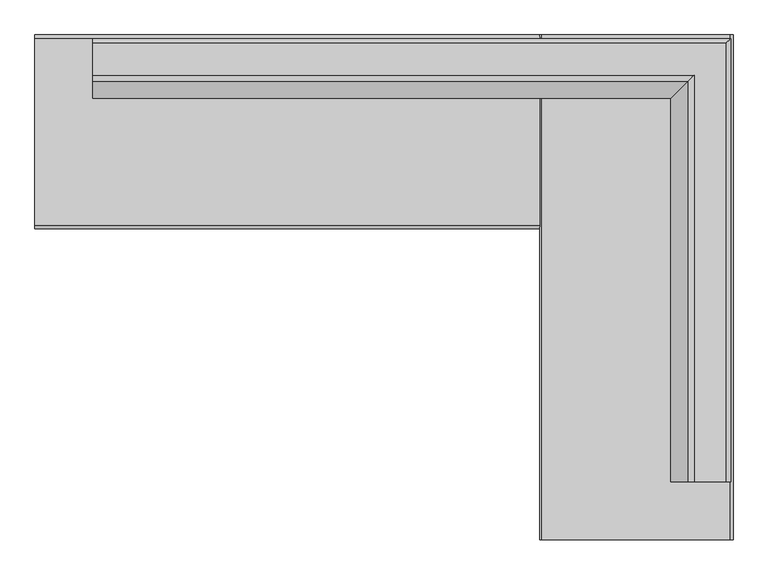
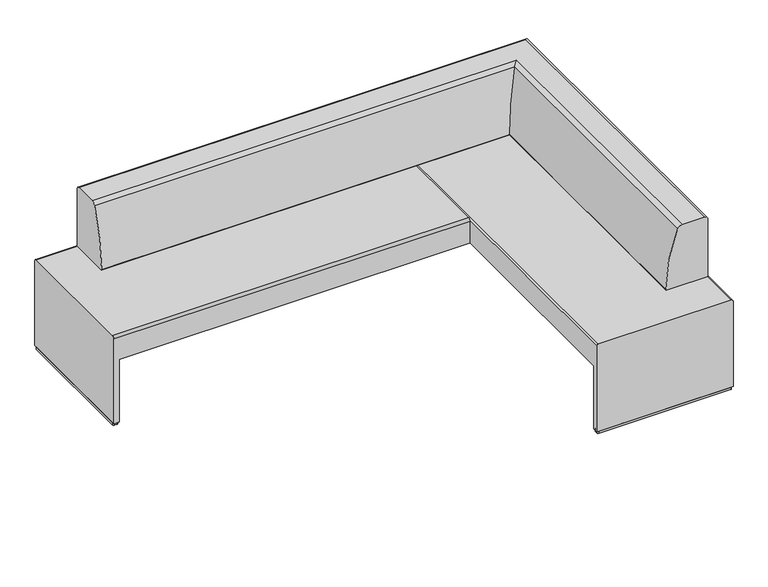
"""IFC4 building model written with IfcOpenShell, lengths in millimetres: furniture geometry, Steelcase Coalesse - Together - Seating - Bench - Right Corner : 8in Back Offset - 69.75D x 96.5W."""

from ifc_helpers import new_model, si_unit, point, frame, frame_2d, origin, origin_with_axes, place, context, project, spatial, polyline, circle_curve, ellipse_curve, trimmed, segment, composite_curve, outline, extrude, source, transform, mapped, element, save
from ifc_brep_helpers import plane_surface, cylinder_surface, advanced_brep


def furniture_60405dff(model_context):
    return source(origin(), model_context, "Body", "SolidModel", [
        advanced_brep(
        [(774.5287475, 3679.1834745, 461.0687949), (764.3687475, 3679.1834745, 471.2287949), (103.5774354, 3679.1834745, 471.2287949), (95.2070699, 3679.1834745, 462.8584293), (95.2070699, 3679.1834745, 12.7976677), (774.5287475, 3679.1834745, 12.7976677), (95.2070699, 5450.8334745, 343.3718099), (95.2070699, 5450.8334745, 462.8584293), (103.5774354, 5450.8334745, 471.2287949), (764.3687475, 5450.8334745, 471.2287949), (774.5287475, 5450.8334745, 461.0687949), (774.5287475, 5450.8334745, 343.3718099), (774.5287475, 3705.1751879, 343.3718099), (432.8174347, 3749.5841192, 343.3718099), (95.2070699, 3705.1751879, 343.3718099), (774.5287475, 3705.1751879, 12.7976677), (95.2070699, 3705.1751879, 12.7976677), (432.8174347, 3749.5841192, 12.7976677)],
        [
            (0, 1, circle_curve(frame((764.3687475, 3679.1834745, 461.0687949), z_axis=(0.0, -1.0, 0.0), x_axis=(-1.0, 0.0, 0.0)), 10.16)),
            (1, 2),
            (2, 3, circle_curve(frame((103.5774354, 3679.1834745, 462.8584293), z_axis=(0.0, -1.0, 0.0), x_axis=(-1.0, 0.0, 0.0)), 8.3703656)),
            (3, 4),
            (4, 5),
            (5, 0),
            (6, 7),
            (7, 8, circle_curve(frame((103.5774354, 5450.8334745, 462.8584293), z_axis=(0.0, 1.0, 0.0), x_axis=(-1.0, 0.0, 0.0)), 8.3703656)),
            (8, 9),
            (9, 10, circle_curve(frame((764.3687475, 5450.8334745, 461.0687949), z_axis=(0.0, 1.0, 0.0), x_axis=(-1.0, 0.0, 0.0)), 10.16)),
            (10, 11),
            (11, 6),
            (11, 12),
            (12, 13),
            (13, 14),
            (14, 6),
            (5, 15),
            (15, 12),
            (10, 0),
            (9, 1),
            (8, 2),
            (7, 3),
            (14, 16),
            (16, 4),
            (17, 15),
            (16, 17),
            (13, 17),
        ],
        [
            plane_surface(frame((733.0421326, 3679.1834745, 343.3718099), z_axis=(0.0, -1.0, 0.0), x_axis=(1.0, 0.0, 0.0))),
            plane_surface(frame((733.0421326, 5450.8334745, 343.3718099), z_axis=(0.0, 1.0, 0.0), x_axis=(-1.0, 0.0, 0.0))),
            plane_surface(frame((95.2070699, 3679.1834745, 343.3718099), z_axis=(0.0, 0.0, -1.0), x_axis=(0.0, 1.0, 0.0))),
            plane_surface(frame((774.5287475, 3679.1834745, 343.3718099), z_axis=(1.0, 0.0, 0.0), x_axis=(0.0, 1.0, 0.0))),
            cylinder_surface(frame((764.3687475, 5450.8334745, 461.0687949), z_axis=(0.0, -1.0, 0.0), x_axis=(-1.0, 0.0, 0.0)), 10.16),
            plane_surface(frame((764.3687475, 3679.1834745, 471.2287949), z_axis=(0.0, 0.0, 1.0), x_axis=(0.0, 1.0, 0.0))),
            cylinder_surface(frame((103.5774354, 5450.8334745, 462.8584293), z_axis=(0.0, -1.0, 0.0), x_axis=(-1.0, 0.0, 0.0)), 8.3703656),
            plane_surface(frame((95.2070699, 3679.1834745, 462.8584293), z_axis=(-1.0, 0.0, 0.0), x_axis=(0.0, 1.0, 0.0))),
            plane_surface(frame((432.8174347, 3749.5841192, 12.7976677), z_axis=(0.0, 0.0, -1.0000000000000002), x_axis=(0.9914594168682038, 0.13041558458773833, 0.0))),
            plane_surface(frame((432.8174347, 3749.5841192, 343.3718099), z_axis=(-0.13041558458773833, 0.9914594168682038, 0.0), x_axis=(0.0, 0.0, -1.0))),
            plane_surface(frame((774.5287475, 3705.1751879, 343.3718099), z_axis=(0.12887659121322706, 0.991660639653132, 0.0), x_axis=(0.0, 0.0, -1.0))),
        ],
        [
            (0, [[1, 2, 3, 4, 5, 6]]),
            (1, [[7, 8, 9, 10, 11, 12]]),
            (2, [[-12, 13, 14, 15, 16]]),
            (3, [[-6, 17, 18, -13, -11, 19]]),
            (4, [[-1, -19, -10, 20]]),
            (5, [[-2, -20, -9, 21]]),
            (6, [[-3, -21, -8, 22]]),
            (7, [[-4, -22, -7, -16, 23, 24]]),
            (8, [[25, -17, -5, -24, 26]]),
            (9, [[-26, -23, -15, 27]]),
            (10, [[-25, -27, -14, -18]]),
        ],
    ),
        advanced_brep(
        [(-1676.5712525, 4783.2670813, 471.2287949), (-1676.5712525, 5438.3536785, 471.2287949), (-1676.5712525, 5451.0536785, 458.5287949), (-1676.5712525, 5451.0536785, 12.7976677), (-1676.5712525, 4770.5670813, 12.7976677), (-1676.5712525, 4770.5670813, 458.5287949), (95.2070699, 4783.2670813, 471.2287949), (95.2070699, 4770.5670813, 458.5287949), (95.2070699, 4770.5670813, 343.3718099), (95.2070699, 5451.0536785, 343.3718099), (95.2070699, 5451.0536785, 458.5287949), (95.2070699, 5438.3536785, 471.2287949), (-1650.7015245, 5451.0536785, 343.3718099), (-1650.7025858, 5451.0536785, 12.7976677), (-1650.3955542, 4770.5670813, 343.3718099), (-1606.0629721, 5108.4198031, 343.3718099), (-1650.3944726, 4770.5670813, 12.7976677), (-1606.0629721, 5108.4198031, 12.7976677)],
        [
            (0, 1),
            (1, 2, circle_curve(frame((-1676.5712525, 5438.3536785, 458.5287949), z_axis=(-1.0, 0.0, 0.0), x_axis=(0.0, 1.0, 0.0)), 12.7)),
            (2, 3),
            (3, 4),
            (4, 5),
            (5, 0, circle_curve(frame((-1676.5712525, 4783.2670813, 458.5287949), z_axis=(-1.0, 0.0, 0.0), x_axis=(0.0, 1.0, 0.0)), 12.7)),
            (6, 7, circle_curve(frame((95.2070699, 4783.2670813, 458.5287949), z_axis=(1.0, 0.0, 0.0), x_axis=(0.0, 1.0, 0.0)), 12.7)),
            (7, 8),
            (8, 9),
            (9, 10),
            (10, 11, circle_curve(frame((95.2070699, 5438.3536785, 458.5287949), z_axis=(1.0, 0.0, 0.0), x_axis=(0.0, 1.0, 0.0)), 12.7)),
            (11, 6),
            (0, 6),
            (11, 1),
            (10, 2),
            (9, 12),
            (12, 13),
            (13, 3),
            (8, 14),
            (14, 15),
            (15, 12),
            (4, 16),
            (16, 14),
            (7, 5),
            (17, 16),
            (13, 17),
            (15, 17),
        ],
        [
            plane_surface(frame((-1676.5712525, 5450.8334745, 471.2287949), z_axis=(-1.0, 0.0, 0.0), x_axis=(0.0, 1.0, 0.0))),
            plane_surface(frame((95.2070699, 5450.8334745, 471.2287949), z_axis=(1.0, 0.0, 0.0), x_axis=(0.0, -1.0, 0.0))),
            plane_surface(frame((-1676.5712525, 4783.2670813, 471.2287949), z_axis=(0.0, 0.0, 1.0), x_axis=(1.0, 0.0, 0.0))),
            cylinder_surface(frame((95.2070699, 5438.3536785, 458.5287949), z_axis=(-1.0, 0.0, 0.0), x_axis=(0.0, 1.0, 0.0)), 12.7),
            plane_surface(frame((-1676.5712525, 5451.0536785, 458.5287949), z_axis=(0.0, 1.0, 0.0), x_axis=(1.0, 0.0, 0.0))),
            plane_surface(frame((-1676.5712525, 5451.0536785, 343.3718099), z_axis=(0.0, 0.0, -1.0), x_axis=(1.0, 0.0, 0.0))),
            plane_surface(frame((-1676.5712525, 4770.5670813, 343.3718099), z_axis=(0.0, -1.0, 0.0), x_axis=(1.0, 0.0, 0.0))),
            cylinder_surface(frame((95.2070699, 4783.2670813, 458.5287949), z_axis=(-1.0, 0.0, 0.0), x_axis=(0.0, 1.0, 0.0)), 12.7),
            plane_surface(frame((-1650.7025858, 5451.0618248, 12.7976677), z_axis=(0.0, 0.0, -1.0), x_axis=(0.12918886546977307, -0.9916200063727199, 0.0))),
            plane_surface(frame((-1606.0629721, 5108.4198031, 343.3718099), z_axis=(0.9916200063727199, 0.12918886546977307, 0.0), x_axis=(0.0, 0.0, -1.0))),
            plane_surface(frame((-1650.3944726, 4770.5753245, 343.3718099), z_axis=(0.9915004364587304, -0.1301033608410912, 0.0), x_axis=(0.0, 0.0, -1.0))),
        ],
        [
            (0, [[1, 2, 3, 4, 5, 6]]),
            (1, [[7, 8, 9, 10, 11, 12]]),
            (2, [[-1, 13, -12, 14]]),
            (3, [[-2, -14, -11, 15]]),
            (4, [[-3, -15, -10, 16, 17, 18]]),
            (5, [[-9, 19, 20, 21, -16]]),
            (6, [[-5, 22, 23, -19, -8, 24]]),
            (7, [[-6, -24, -7, -13]]),
            (8, [[25, -22, -4, -18, 26]]),
            (9, [[-26, -17, -21, 27]]),
            (10, [[-25, -27, -20, -23]]),
        ],
    ),
        extrude(outline(composite_curve([segment(polyline([(-1606.5189643, 5113.2843855), (-1651.5193515, 4782.1665875)]), True, "CONTINUOUS"), segment(trimmed(circle_curve(frame_2d((-1657.8115092, 4783.0217198)), 6.35), [point((-1651.5193515, 4782.1665875))], [point((-1657.8166959, 4776.6717219))], False, "CARTESIAN"), True, "CONTINUOUS"), segment(polyline([(-1657.8166959, 4776.6717219), (-1670.2739607, 4776.6818969)]), True, "CONTINUOUS"), segment(trimmed(circle_curve(frame_2d((-1670.268774, 4783.0318948)), 6.35), [point((-1670.2739607, 4776.6818969))], [point((-1676.6187719, 4783.0370815))], False, "CARTESIAN"), True, "CONTINUOUS"), segment(polyline([(-1676.6187719, 4783.0370815), (-1676.0832557, 5438.6681616)]), True, "CONTINUOUS"), segment(trimmed(circle_curve(frame_2d((-1669.7332578, 5438.6629749)), 6.35), [point((-1676.0832557, 5438.6681616))], [point((-1669.7280712, 5445.0129728))], False, "CARTESIAN"), True, "CONTINUOUS"), segment(polyline([(-1669.7280712, 5445.0129728), (-1657.2050538, 5445.0027441)]), True, "CONTINUOUS"), segment(trimmed(circle_curve(frame_2d((-1657.2107966, 5437.9717942)), 7.0309522), [point((-1657.2050538, 5445.0027441))], [point((-1650.2423843, 5438.9074858))], False, "CARTESIAN"), True, "CONTINUOUS"), segment(polyline([(-1650.2423843, 5438.9074858), (-1606.5189643, 5113.2843855)]), True, "CONTINUOUS")], self_intersect=False)), origin_with_axes(), (0.0, 0.0, 1.0), 12.7976677),
        extrude(outline(composite_curve([segment(polyline([(437.4499039, 5381.2236386), (106.2954602, 5425.9535555)]), True, "CONTINUOUS"), segment(trimmed(circle_curve(frame_2d((107.1454529, 5432.2464096)), 6.35), [point((106.2954602, 5425.9535555))], [point((100.7954529, 5432.2464096))], False, "CARTESIAN"), True, "CONTINUOUS"), segment(polyline([(100.7954529, 5432.2464096), (100.7954529, 5444.7036785)]), True, "CONTINUOUS"), segment(trimmed(circle_curve(frame_2d((107.1454529, 5444.7036785)), 6.35), [point((100.7954529, 5444.7036785))], [point((107.1454529, 5451.0536785))], False, "CARTESIAN"), True, "CONTINUOUS"), segment(polyline([(107.1454529, 5451.0536785), (762.7767517, 5451.0536785)]), True, "CONTINUOUS"), segment(trimmed(circle_curve(frame_2d((762.7767517, 5444.7036785)), 6.35), [point((762.7767517, 5451.0536785))], [point((769.1267517, 5444.7036785))], False, "CARTESIAN"), True, "CONTINUOUS"), segment(polyline([(769.1267517, 5444.7036785), (769.1267517, 5432.180657)]), True, "CONTINUOUS"), segment(trimmed(circle_curve(frame_2d((762.0957995, 5432.180657)), 7.0309522), [point((769.1267517, 5432.180657))], [point((763.0371826, 5425.2130112))], False, "CARTESIAN"), True, "CONTINUOUS"), segment(polyline([(763.0371826, 5425.2130112), (437.4499039, 5381.2236386)]), True, "CONTINUOUS")], self_intersect=False)), origin_with_axes(), (0.0, 0.0, 1.0), 12.7976677),
        extrude(outline(composite_curve([segment(polyline([(437.4499039, 3749.8966001), (763.0371826, 3705.9072274)]), True, "CONTINUOUS"), segment(trimmed(circle_curve(frame_2d((762.0957995, 3698.9395817)), 7.0309522), [point((763.0371826, 3705.9072274))], [point((769.1267517, 3698.9395817))], False, "CARTESIAN"), True, "CONTINUOUS"), segment(polyline([(769.1267517, 3698.9395817), (769.1267517, 3686.4165601)]), True, "CONTINUOUS"), segment(trimmed(circle_curve(frame_2d((762.7767517, 3686.4165601)), 6.35), [point((769.1267517, 3686.4165601))], [point((762.7767517, 3680.0665601))], False, "CARTESIAN"), True, "CONTINUOUS"), segment(polyline([(762.7767517, 3680.0665601), (107.1454529, 3680.0665601)]), True, "CONTINUOUS"), segment(trimmed(circle_curve(frame_2d((107.1454529, 3686.4165601)), 6.35), [point((107.1454529, 3680.0665601))], [point((100.7954529, 3686.4165601))], False, "CARTESIAN"), True, "CONTINUOUS"), segment(polyline([(100.7954529, 3686.4165601), (100.7954529, 3698.8738291)]), True, "CONTINUOUS"), segment(trimmed(circle_curve(frame_2d((107.1454529, 3698.8738291)), 6.35), [point((100.7954529, 3698.8738291))], [point((106.2954602, 3705.1666831))], False, "CARTESIAN"), True, "CONTINUOUS"), segment(polyline([(106.2954602, 3705.1666831), (437.4499039, 3749.8966001)]), True, "CONTINUOUS")], self_intersect=False)), origin_with_axes(), (0.0, 0.0, 1.0), 12.7976677),
        extrude(outline(polyline([(432.8174347, 5380.6530339), (95.2070699, 5425.0619651), (95.2070699, 5451.0536785), (774.6302917, 5451.0536785), (774.6302917, 5425.0751618), (432.8174347, 5380.6530339)])), frame((0.0, 0.0, 12.7976677), z_axis=(0.0, 0.0, 1.0), x_axis=(1.0, 0.0, 0.0)), (0.0, 0.0, 1.0), 330.5741422),
        advanced_brep(
        [(637.9650651, 3882.3834745, 789.6908243), (617.0761552, 3882.3834745, 775.9296487), (556.0897813, 3882.3834745, 477.5628851), (562.4397614, 3882.3834745, 471.2287949), (765.057783, 3882.3834745, 471.2287949), (765.819783, 3882.3834745, 471.9907949), (765.819783, 3882.3834745, 774.0501793), (750.179138, 3882.3834745, 789.6908243), (637.9650651, 5309.7765091, 789.6908243), (617.0761552, 5288.8875992, 775.9296487), (556.0897813, 5227.9012254, 477.5628851), (562.4397614, 5234.2512054, 471.2287949), (-1473.3712525, 5234.2512054, 471.2287949), (-1473.3712525, 5436.869227, 471.2287949), (765.057783, 5436.869227, 471.2287949), (765.819783, 5437.631227, 471.9907949), (765.819783, 5437.631227, 774.0501793), (750.179138, 5421.990582, 789.6908243), (-1473.3712525, 5421.990582, 789.6908243), (-1473.3712525, 5309.7765091, 789.6908243), (-1473.3712525, 5437.631227, 774.0501793), (-1473.3712525, 5437.631227, 471.9907949), (-1473.3712525, 5227.9012254, 477.5628851), (-1473.3712525, 5288.8875992, 775.9296487)],
        [
            (0, 1, circle_curve(frame((637.9650651, 3882.3834745, 766.9559749), z_axis=(0.0, -1.0, 0.0), x_axis=(-1.0, 0.0, 0.0)), 22.7348495)),
            (1, 2, circle_curve(frame((1307.2331615, 3882.3834745, 479.4448666), z_axis=(0.0, -1.0, 0.0), x_axis=(-1.0, 0.0, 0.0)), 751.1457378)),
            (2, 3, circle_curve(frame((562.4397614, 3882.3834745, 477.5787949), z_axis=(0.0, -1.0, 0.0), x_axis=(-1.0, 0.0, 0.0)), 6.35)),
            (3, 4),
            (4, 5, circle_curve(frame((765.057783, 3882.3834745, 471.9907949), z_axis=(0.0, -1.0, 0.0), x_axis=(-1.0, 0.0, 0.0)), 0.762)),
            (5, 6),
            (6, 7, circle_curve(frame((750.179138, 3882.3834745, 774.0501793), z_axis=(0.0, -1.0, 0.0), x_axis=(-1.0, 0.0, 0.0)), 15.6406451)),
            (7, 0),
            (0, 8),
            (8, 9, ellipse_curve(frame((637.9650651, 5309.7765091, 766.9559749), z_axis=(0.7071067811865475, -0.7071067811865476, 0.0), x_axis=(-0.7071067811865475, -0.7071067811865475, 0.0)), 32.1519324, 22.7348495)),
            (9, 1),
            (9, 10, ellipse_curve(frame((1307.2331615, 5979.0446055, 479.4448666), z_axis=(0.7071067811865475, -0.7071067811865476, 0.0), x_axis=(-0.7071067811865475, -0.7071067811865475, 0.0)), 1062.2804897, 751.1457378)),
            (10, 2),
            (10, 11, ellipse_curve(frame((562.4397614, 5234.2512054, 477.5787949), z_axis=(0.7071067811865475, -0.7071067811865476, 0.0), x_axis=(-0.7071067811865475, -0.7071067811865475, 0.0)), 8.9802561, 6.35)),
            (11, 3),
            (11, 12),
            (12, 13),
            (13, 14),
            (14, 4),
            (14, 15, ellipse_curve(frame((765.057783, 5436.869227, 471.9907949), z_axis=(0.7071067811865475, -0.7071067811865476, 0.0), x_axis=(-0.7071067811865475, -0.7071067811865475, 0.0)), 1.0776307, 0.762)),
            (15, 5),
            (15, 16),
            (16, 6),
            (16, 17, ellipse_curve(frame((750.179138, 5421.990582, 774.0501793), z_axis=(0.7071067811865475, -0.7071067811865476, 0.0), x_axis=(-0.7071067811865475, -0.7071067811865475, 0.0)), 22.1192124, 15.6406451)),
            (17, 7),
            (17, 18),
            (18, 19),
            (19, 8),
            (18, 20, circle_curve(frame((-1473.3712525, 5421.990582, 774.0501793), z_axis=(-1.0, 0.0, 0.0), x_axis=(0.0, -1.0, 0.0)), 15.6406451)),
            (20, 21),
            (21, 13, circle_curve(frame((-1473.3712525, 5436.869227, 471.9907949), z_axis=(-1.0, 0.0, 0.0), x_axis=(0.0, -1.0, 0.0)), 0.762)),
            (12, 22, circle_curve(frame((-1473.3712525, 5234.2512054, 477.5787949), z_axis=(-1.0, 0.0, 0.0), x_axis=(0.0, -1.0, 0.0)), 6.35)),
            (22, 23, circle_curve(frame((-1473.3712525, 5979.0446055, 479.4448666), z_axis=(-1.0, 0.0, 0.0), x_axis=(0.0, -1.0, 0.0)), 751.1457378)),
            (23, 19, circle_curve(frame((-1473.3712525, 5309.7765091, 766.9559749), z_axis=(-1.0, 0.0, 0.0), x_axis=(0.0, -1.0, 0.0)), 22.7348495)),
            (23, 9),
            (22, 10),
            (21, 15),
            (20, 16),
        ],
        [
            plane_surface(frame((555.2553454, 3882.3834745, 0.0), z_axis=(0.0, -1.0, 0.0), x_axis=(0.0, 0.0, 1.0))),
            cylinder_surface(frame((637.9650651, 3882.3834745, 766.9559749), z_axis=(0.0, -1.0, 0.0), x_axis=(-1.0, 0.0, 0.0)), 22.7348495),
            cylinder_surface(frame((1307.2331615, 3882.3834745, 479.4448666), z_axis=(0.0, -1.0, 0.0), x_axis=(-1.0, 0.0, 0.0)), 751.1457378),
            cylinder_surface(frame((562.4397614, 3882.3834745, 477.5787949), z_axis=(0.0, -1.0, 0.0), x_axis=(-1.0, 0.0, 0.0)), 6.35),
            plane_surface(frame((562.4397614, 3882.3834745, 471.2287949), z_axis=(0.0, 0.0, -1.0), x_axis=(0.0, 1.0, 0.0))),
            cylinder_surface(frame((765.057783, 3882.3834745, 471.9907949), z_axis=(0.0, -1.0, 0.0), x_axis=(-1.0, 0.0, 0.0)), 0.762),
            plane_surface(frame((765.819783, 3882.3834745, 471.9907949), z_axis=(1.0, 0.0, 0.0), x_axis=(0.0, 1.0, 0.0))),
            cylinder_surface(frame((750.179138, 3882.3834745, 774.0501793), z_axis=(0.0, -1.0, 0.0), x_axis=(-1.0, 0.0, 0.0)), 15.6406451),
            plane_surface(frame((750.179138, 3882.3834745, 789.6908243), z_axis=(0.0, 0.0, 1.0), x_axis=(0.0, 1.0, 0.0))),
            plane_surface(frame((-1473.3712525, 5227.0667894, 0.0), z_axis=(-1.0, 0.0, 0.0), x_axis=(0.0, 0.0, 1.0))),
            cylinder_surface(frame((555.2553454, 5309.7765091, 766.9559749), z_axis=(1.0, 0.0, 0.0), x_axis=(0.0, -1.0, 0.0)), 22.7348495),
            cylinder_surface(frame((555.2553454, 5979.0446055, 479.4448666), z_axis=(1.0, 0.0, 0.0), x_axis=(0.0, -1.0, 0.0)), 751.1457378),
            cylinder_surface(frame((555.2553454, 5234.2512054, 477.5787949), z_axis=(1.0, 0.0, 0.0), x_axis=(0.0, -1.0, 0.0)), 6.35),
            cylinder_surface(frame((555.2553454, 5436.869227, 471.9907949), z_axis=(1.0, 0.0, 0.0), x_axis=(0.0, -1.0, 0.0)), 0.762),
            plane_surface(frame((765.819783, 5437.631227, 471.9907949), z_axis=(0.0, 1.0, 0.0), x_axis=(-1.0, 0.0, 0.0))),
            cylinder_surface(frame((555.2553454, 5421.990582, 774.0501793), z_axis=(1.0, 0.0, 0.0), x_axis=(0.0, -1.0, 0.0)), 15.6406451),
        ],
        [
            (0, [[1, 2, 3, 4, 5, 6, 7, 8]]),
            (1, [[-1, 9, 10, 11]]),
            (2, [[-2, -11, 12, 13]]),
            (3, [[-3, -13, 14, 15]]),
            (4, [[-4, -15, 16, 17, 18, 19]]),
            (5, [[-5, -19, 20, 21]]),
            (6, [[-6, -21, 22, 23]]),
            (7, [[-7, -23, 24, 25]]),
            (8, [[-8, -25, 26, 27, 28, -9]]),
            (9, [[-27, 29, 30, 31, -17, 32, 33, 34]]),
            (10, [[-10, -28, -34, 35]]),
            (11, [[-12, -35, -33, 36]]),
            (12, [[-14, -36, -32, -16]]),
            (13, [[-20, -18, -31, 37]]),
            (14, [[-22, -37, -30, 38]]),
            (15, [[-24, -38, -29, -26]]),
        ],
    ),
    ])


if __name__ == "__main__":
    model = new_model("IFC4")
    model_context = context("Model", 3, world=origin())
    ifc_project = project(units=[si_unit("LENGTHUNIT", "METRE", prefix="MILLI")], contexts=[model_context])
    site = spatial("IfcSite", under=ifc_project)
    building = spatial("IfcBuilding", under=site)
    placement = place(None, origin())
    furniture_shape = furniture_60405dff(model_context)
    element("IfcFurniture", 1, ObjectType="Steelcase Coalesse - Together - Seating - Bench - Right Corner : 8in Back Offset - 69.75D x 96.5W", at=placement, inside=building, context=model_context, shape_type="MappedRepresentation", body=[
        mapped(furniture_shape, transform((0.0, 0.0, 0.0), x_axis=(1.0, 0.0, 0.0), y_axis=(0.0, 1.0, 0.0), z_axis=(0.0, 0.0, 1.0))),
    ])
    save(model, "model.ifc")
